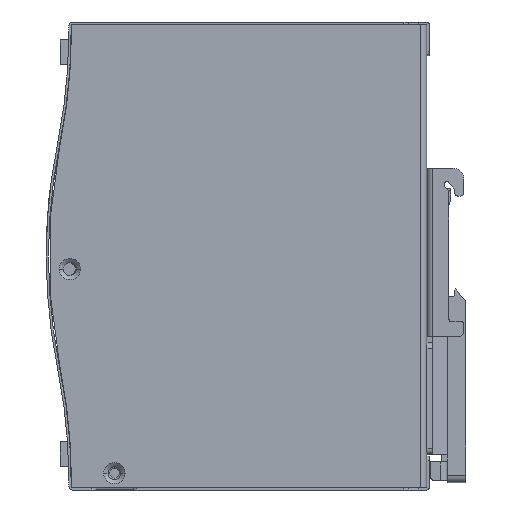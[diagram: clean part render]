
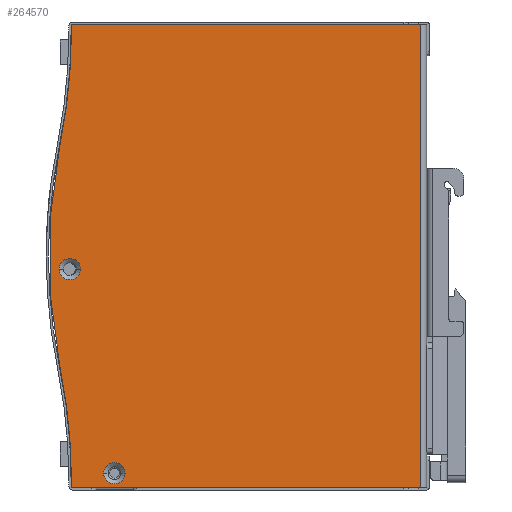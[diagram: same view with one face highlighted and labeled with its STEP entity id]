
A CAD part, front view. The second image highlights one B-rep face of the part: STEP entity #264570.
In plain terms, the highlighted planar face has unit normal (0, -1, 0).
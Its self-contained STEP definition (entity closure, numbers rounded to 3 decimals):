
#243710=CARTESIAN_POINT('',(84.453,13.236,74.));
#243720=VERTEX_POINT('',#243710);
#243750=CARTESIAN_POINT('',(0.,13.236,74.));
#243760=DIRECTION('',(-1.,0.,0.));
#243770=VECTOR('',#243760,1.);
#243780=LINE('',#243750,#243770);
#243790=CARTESIAN_POINT('',(-8.439,13.236,74.));
#243800=VERTEX_POINT('',#243790);
#243810=EDGE_CURVE('',#243720,#243800,#243780,.T.);
#244470=CARTESIAN_POINT('',(-8.439,13.236,73.5));
#244480=DIRECTION('',(0.,-1.,0.));
#244490=DIRECTION('',(-1.,0.,0.));
#244500=AXIS2_PLACEMENT_3D('',#244470,#244480,#244490);
#244510=CIRCLE('',#244500,0.5);
#244520=CARTESIAN_POINT('',(-8.939,13.236,73.5));
#244530=VERTEX_POINT('',#244520);
#244540=EDGE_CURVE('',#243800,#244530,#244510,.T.);
#245080=CARTESIAN_POINT('',(-8.939,13.236,73.495)
);
#245090=VERTEX_POINT('',#245080);
#245100=EDGE_CURVE('',#244530,#245090,#244510,.T.);
#245490=CARTESIAN_POINT('',(-8.439,13.236,-49.5));
#245500=DIRECTION('',(0.,-1.,0.));
#245510=DIRECTION('',(-1.,0.,0.));
#245520=AXIS2_PLACEMENT_3D('',#245490,#245500,#245510);
#245530=CIRCLE('',#245520,0.5);
#245540=CARTESIAN_POINT('',(-8.939,13.236,-49.495
));
#245550=VERTEX_POINT('',#245540);
#245560=CARTESIAN_POINT('',(-8.939,13.236,-49.5));
#245570=VERTEX_POINT('',#245560);
#245580=EDGE_CURVE('',#245550,#245570,#245530,.T.);
#245910=CARTESIAN_POINT('',(0.,13.236,-50.));
#245920=DIRECTION('',(-1.,0.,0.));
#245930=VECTOR('',#245920,1.);
#245940=LINE('',#245910,#245930);
#245950=CARTESIAN_POINT('',(84.453,13.236,-50.));
#245960=VERTEX_POINT('',#245950);
#245970=CARTESIAN_POINT('',(-8.439,13.236,-50.));
#245980=VERTEX_POINT('',#245970);
#245990=EDGE_CURVE('',#245960,#245980,#245940,.T.);
#246990=CARTESIAN_POINT('',(-158.932,13.236,72.019
));
#247000=DIRECTION('',(0.,-1.,0.));
#247010=DIRECTION('',(0.,0.,-1.));
#247020=AXIS2_PLACEMENT_3D('',#246990,#247000,#247010);
#247030=CIRCLE('',#247020,150.);
#247040=CARTESIAN_POINT('',(-11.964,13.236,42.01)
);
#247050=VERTEX_POINT('',#247040);
#247060=EDGE_CURVE('',#247050,#245090,#247030,.T.);
#250130=CARTESIAN_POINT('',(-11.964,13.236,-18.01
));
#250140=VERTEX_POINT('',#250130);
#250170=CARTESIAN_POINT('',(-158.932,13.236,
-48.019));
#250180=DIRECTION('',(0.,-1.,0.));
#250190=DIRECTION('',(0.,0.,-1.));
#250200=AXIS2_PLACEMENT_3D('',#250170,#250180,#250190);
#250210=CIRCLE('',#250200,150.);
#250220=EDGE_CURVE('',#245550,#250140,#250210,.T.);
#250340=CARTESIAN_POINT('',(135.003,13.236,12.)
);
#250350=DIRECTION('',(0.,-1.,0.));
#250360=DIRECTION('',(0.,0.,-1.));
#250370=AXIS2_PLACEMENT_3D('',#250340,#250350,#250360);
#250380=CIRCLE('',#250370,150.);
#250390=EDGE_CURVE('',#247050,#250140,#250380,.T.);
#251250=CARTESIAN_POINT('',(-6.497,13.236,8.5
));
#251260=VERTEX_POINT('',#251250);
#251290=CARTESIAN_POINT('',(-9.347,13.236,8.5
));
#251300=DIRECTION('',(0.,1.,0.));
#251310=DIRECTION('',(-1.,0.,0.));
#251320=AXIS2_PLACEMENT_3D('',#251290,#251300,#251310);
#251330=CIRCLE('',#251320,2.85);
#251340=CARTESIAN_POINT('',(-12.197,13.236,8.5)
);
#251350=VERTEX_POINT('',#251340);
#251360=EDGE_CURVE('',#251260,#251350,#251330,.T.);
#259600=EDGE_CURVE('',#245570,#245980,#245530,.T.);
#260450=EDGE_CURVE('',#251350,#251260,#251330,.T.);
#263710=CARTESIAN_POINT('',(84.453,13.236,0.));
#263720=DIRECTION('',(0.,0.,-1.));
#263730=VECTOR('',#263720,1.);
#263740=LINE('',#263710,#263730);
#263750=EDGE_CURVE('',#243720,#245960,#263740,.T.);
#264210=CARTESIAN_POINT('',(-13.667,13.236,0.));
#264220=DIRECTION('',(0.,-1.,0.));
#264230=DIRECTION('',(-1.,0.,0.));
#264240=AXIS2_PLACEMENT_3D('',#264210,#264220,#264230);
#264250=PLANE('',#264240);
#264260=ORIENTED_EDGE('',*,*,#260450,.T.);
#264270=ORIENTED_EDGE('',*,*,#251360,.T.);
#264280=EDGE_LOOP('',(#264270,#264260));
#264290=FACE_BOUND('',#264280,.T.);
#264300=CARTESIAN_POINT('',(2.553,13.236,-46.1
));
#264310=DIRECTION('',(0.,1.,0.));
#264320=DIRECTION('',(-1.,0.,0.));
#264330=AXIS2_PLACEMENT_3D('',#264300,#264310,#264320);
#264340=CIRCLE('',#264330,2.85);
#264350=CARTESIAN_POINT('',(-0.297,13.236,
-46.1));
#264360=VERTEX_POINT('',#264350);
#264370=CARTESIAN_POINT('',(5.403,13.236,-46.1
));
#264380=VERTEX_POINT('',#264370);
#264390=EDGE_CURVE('',#264360,#264380,#264340,.T.);
#264400=ORIENTED_EDGE('',*,*,#264390,.T.);
#264410=EDGE_CURVE('',#264380,#264360,#264340,.T.);
#264420=ORIENTED_EDGE('',*,*,#264410,.T.);
#264430=EDGE_LOOP('',(#264420,#264400));
#264440=FACE_BOUND('',#264430,.T.);
#264450=ORIENTED_EDGE('',*,*,#259600,.T.);
#264460=ORIENTED_EDGE('',*,*,#245580,.T.);
#264470=ORIENTED_EDGE('',*,*,#250220,.F.);
#264480=ORIENTED_EDGE('',*,*,#250390,.T.);
#264490=ORIENTED_EDGE('',*,*,#247060,.F.);
#264500=ORIENTED_EDGE('',*,*,#245100,.T.);
#264510=ORIENTED_EDGE('',*,*,#244540,.T.);
#264520=ORIENTED_EDGE('',*,*,#243810,.T.);
#264530=ORIENTED_EDGE('',*,*,#263750,.F.);
#264540=ORIENTED_EDGE('',*,*,#245990,.F.);
#264550=EDGE_LOOP('',(#264540,#264530,#264520,#264510,#264500,#264490,
#264480,#264470,#264460,#264450));
#264560=FACE_OUTER_BOUND('',#264550,.T.);
#264570=ADVANCED_FACE('',(#264290,#264440,#264560),#264250,.T.);
